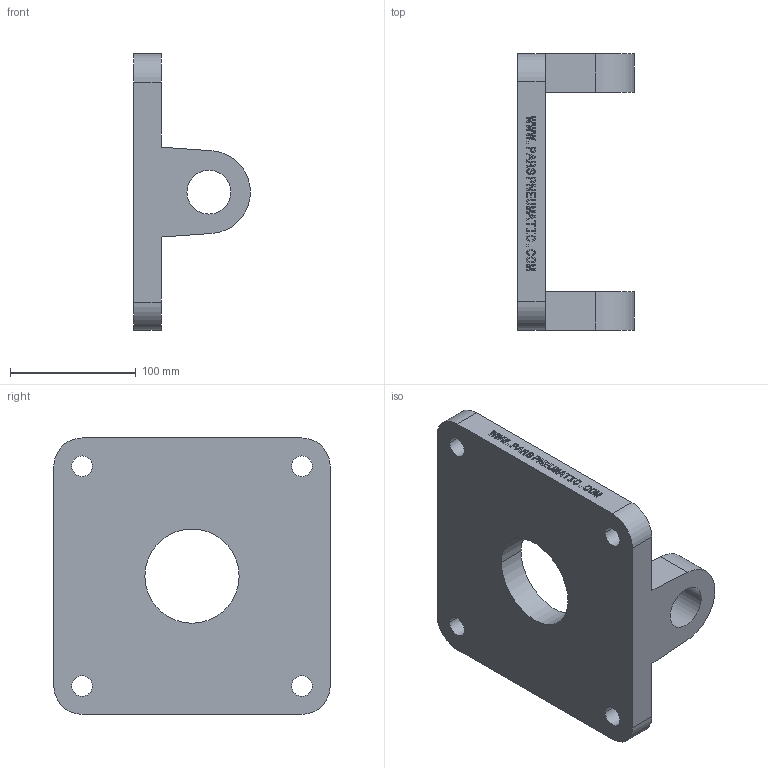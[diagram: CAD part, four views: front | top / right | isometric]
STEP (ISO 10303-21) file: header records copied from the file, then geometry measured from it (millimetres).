
FILE_DESCRIPTION(('CATIA V5 STEP Exchange'),'2;1');
FILE_NAME('D:\stp file for catalog\BAST-CB\CB 200.stp','2018-06-13T06:10:01+00:00',('none'),('none'),'CATIA Version 5-6 Release 2016','CATIA V5 STEP AP203','none');
FILE_SCHEMA(('CONFIG_CONTROL_DESIGN'));
Length unit declared in the file: millimetre
Products named in the file (1): PNC-CB 200
Bounding box: 93 x 220 x 220.2 mm (x, y, z)
Volume: 1145567.6 mm3; surface area: 140624.2 mm2
Topology: 1 solids, 1 shells, 458 faces, 1287 edges, 858 vertices
Faces by surface type: plane 438, cylinder 20
Entity records: 13975 total; most frequent: ORIENTED_EDGE 2574, CARTESIAN_POINT 2495, DIRECTION 1985, EDGE_CURVE 1287, VECTOR 1247, LINE 1247, VERTEX_POINT 858, EDGE_LOOP 499
